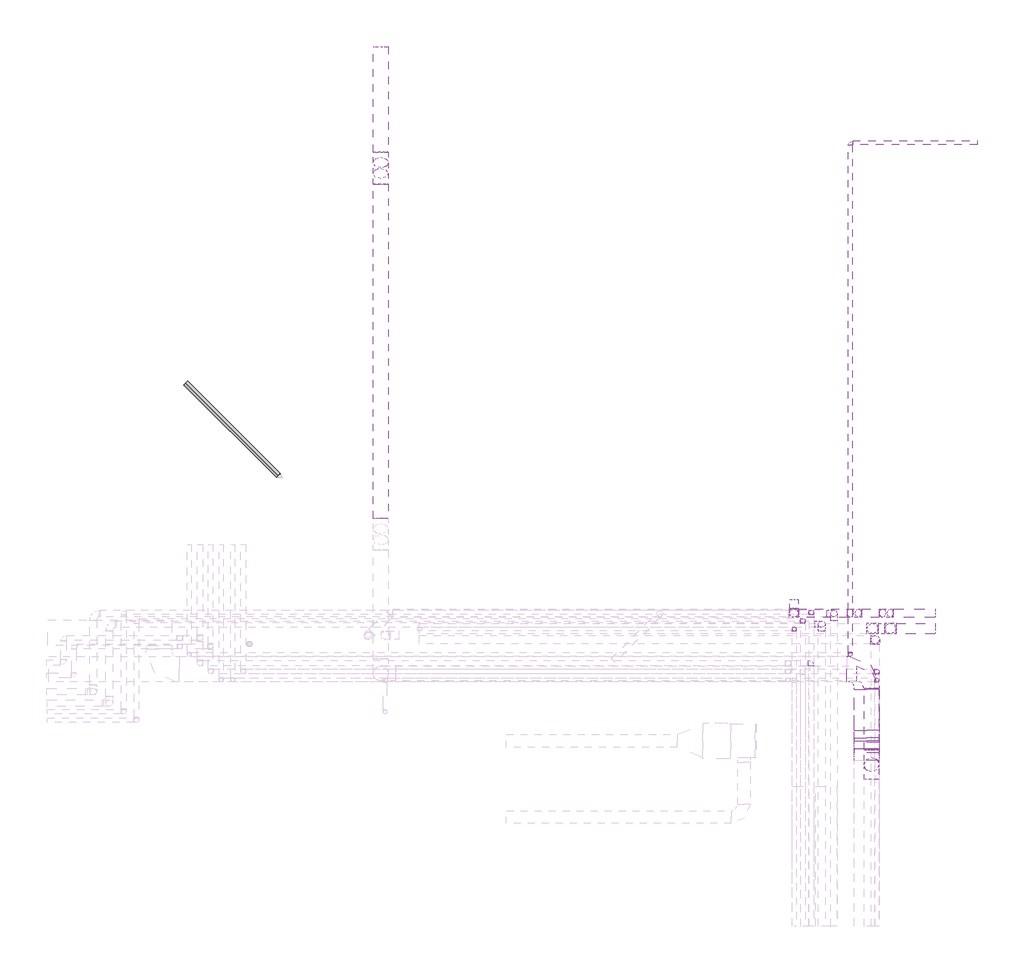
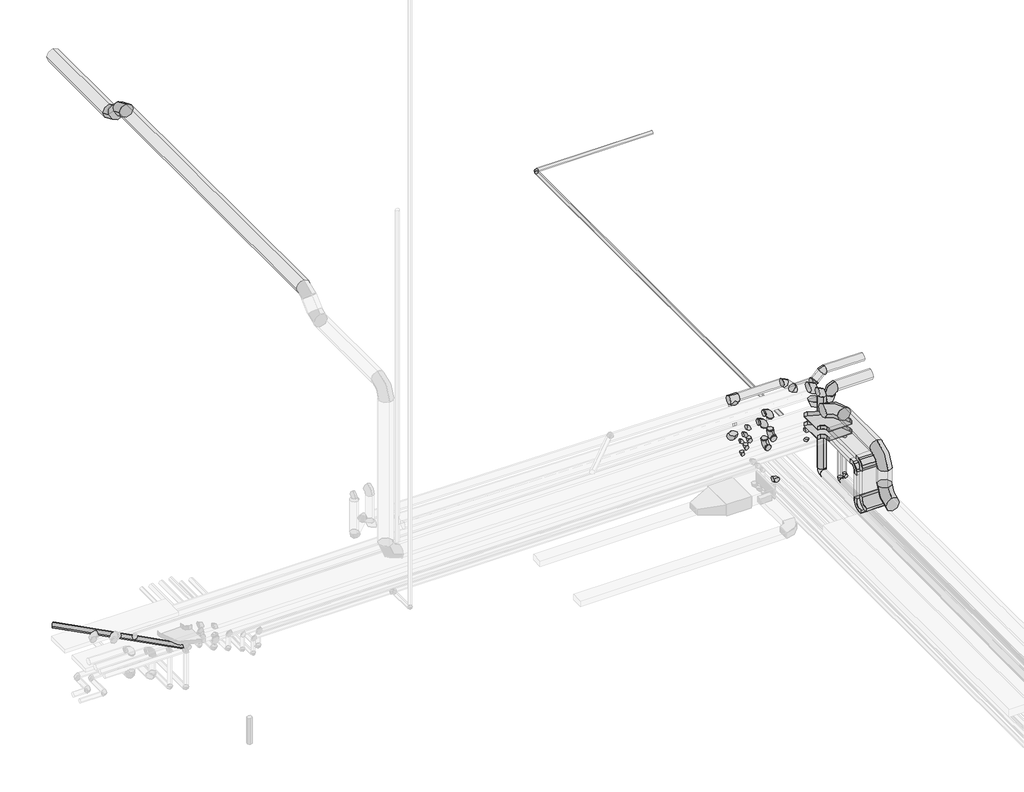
# One storey, part 12 of 12: 30 pipe fittings, 23 pipe segments, 6 cable carrier fittings, 5 duct fittings, 5 duct segments, 4 cable carrier segments.
"""IFC4 building model written with IfcOpenShell, lengths in millimetres."""

from ifc_helpers import new_model, si_unit, point, frame, frame_2d, origin, place, context, project, spatial, polyline, circle_curve, trimmed, segment, composite_curve, outline, extrude, transform, mapped, element, save
from components import m_codo_horizontal_de_canal_el_942b80fb, m_codo_vertical_exterior_de_canal_el_de53a87f, m_codo_vertical_interior_de_canal_el_ae449671, m_codo_redondo_ext_1_d_63cf0125, m_codo_redondo_ext_1_d_13bc036d, pipe_fitting_eb148d84, pipe_fitting_c8b089c1, pipe_fitting_fa3f9604, pipe_fitting_87aeffad, pipe_fitting_538e9e3e, pipe_fitting_24306459, pipe_fitting_2828413b, pipe_fitting_a195f39d, pipe_fitting_6271dc1d, pipe_fitting_e24ca710, pipe_fitting_84574e39

model = new_model("IFC4")

# Units and contexts
model_context = context("Model", 3, world=origin())
ifc_project = project(units=[si_unit("LENGTHUNIT", "METRE", prefix="MILLI")], contexts=[model_context])

# Site, building, storey
site = spatial("IfcSite", under=ifc_project)
building = spatial("IfcBuilding", under=site)
storey = spatial("IfcBuildingStorey", under=building, Name="Nivell -01 PS1_PK", Elevation=1850.0)

# Cable carrier fittings
placement = place(None, origin())
m_codo_horizontal_de_canal_el_shape = m_codo_horizontal_de_canal_el_942b80fb(model_context)
element("IfcCableCarrierFitting", 1, ObjectType="M_Codo horizontal de canal : EL", at=placement, inside=storey, context=model_context, shape_type="MappedRepresentation", body=[
    mapped(m_codo_horizontal_de_canal_el_shape, transform((33367.3540629, 3297.0810479, 5200.0), x_axis=(1.0, 0.0, 0.0), y_axis=(0.0, 1.0, 0.0), z_axis=(0.0, 0.0, 1.0))),
])
element("IfcCableCarrierFitting", 2, ObjectType="M_Codo horizontal de canal : EL", at=placement, inside=storey, context=model_context, shape_type="MappedRepresentation", body=[
    mapped(m_codo_horizontal_de_canal_el_shape, transform((33367.3540629, 3297.068534, 5450.0), x_axis=(1.0, 0.0, 0.0), y_axis=(0.0, 1.0, 0.0), z_axis=(0.0, 0.0, 1.0))),
])
m_codo_vertical_exterior_de_canal_el_shape = m_codo_vertical_exterior_de_canal_el_de53a87f(model_context)
element("IfcCableCarrierFitting", 3, ObjectType="M_Codo vertical exterior de canal : EL", at=placement, inside=storey, context=model_context, shape_type="MappedRepresentation", body=[
    mapped(m_codo_vertical_exterior_de_canal_el_shape, transform((33367.3540629, 1622.9984631, 5200.0), x_axis=(0.0, -1.0, 0.0), y_axis=(0.0, 0.0, -1.0), z_axis=(1.0, 0.0, 0.0))),
])
element("IfcCableCarrierFitting", 4, ObjectType="M_Codo vertical exterior de canal : EL", at=placement, inside=storey, context=model_context, shape_type="MappedRepresentation", body=[
    mapped(m_codo_vertical_exterior_de_canal_el_shape, transform((33367.3540629, 1372.9859493, 5450.0), x_axis=(0.0, -1.0, 0.0), y_axis=(0.0, 0.0, -1.0), z_axis=(1.0, 0.0, 0.0))),
])
m_codo_vertical_interior_de_canal_el_shape = m_codo_vertical_interior_de_canal_el_ae449671(model_context)
element("IfcCableCarrierFitting", 5, ObjectType="M_Codo vertical interior de canal : EL", at=placement, inside=storey, context=model_context, shape_type="MappedRepresentation", body=[
    mapped(m_codo_vertical_interior_de_canal_el_shape, transform((33367.3540629, 1622.9984631, 4100.0), x_axis=(0.0, 1.0, 0.0), y_axis=(0.0, 0.0, 1.0), z_axis=(1.0, 0.0, 0.0))),
])
element("IfcCableCarrierFitting", 6, ObjectType="M_Codo vertical interior de canal : EL", at=placement, inside=storey, context=model_context, shape_type="MappedRepresentation", body=[
    mapped(m_codo_vertical_interior_de_canal_el_shape, transform((33367.3540629, 1372.9859493, 4300.0), x_axis=(0.0, 0.0, -1.0), y_axis=(0.0, -1.0, 0.0), z_axis=(-1.0, 0.0, 0.0))),
])

# Cable carrier segments
element("IfcCableCarrierSegment", 7, ObjectType="EL", at=placement, inside=storey, context=model_context, shape_type="SweptSolid", body=[
    extrude(outline(polyline([(33667.3540629, 1597.9859493), (33067.3540629, 1597.9859493), (33067.3540629, 2822.068534), (33667.3540629, 2822.068534), (33667.3540629, 1597.9859493)])), frame((0.0, 0.0, 5400.0), z_axis=(0.0, 0.0, 1.0), x_axis=(1.0, 0.0, 0.0)), (0.0, 0.0, 1.0), 100.0),
])
element("IfcCableCarrierSegment", 8, ObjectType="EL", at=placement, inside=storey, context=model_context, shape_type="SweptSolid", body=[
    extrude(outline(polyline([(33667.3540629, 1847.9984631), (33067.3540629, 1847.9984631), (33067.3540629, 2822.0810479), (33667.3540629, 2822.0810479), (33667.3540629, 1847.9984631)])), frame((0.0, 0.0, 5150.0), z_axis=(0.0, 0.0, 1.0), x_axis=(1.0, 0.0, 0.0)), (0.0, 0.0, 1.0), 100.0),
])
element("IfcCableCarrierSegment", 9, ObjectType="EL", at=placement, inside=storey, context=model_context, shape_type="SweptSolid", body=[
    extrude(outline(polyline([(33667.3540629, 1422.9859493), (33667.3540629, 1322.9859493), (33067.3540629, 1322.9859493), (33067.3540629, 1422.9859493), (33667.3540629, 1422.9859493)])), frame((0.0, 0.0, 4525.0), z_axis=(0.0, 0.0, 1.0), x_axis=(1.0, 0.0, 0.0)), (0.0, 0.0, 1.0), 700.0),
])
element("IfcCableCarrierSegment", 10, ObjectType="EL", at=placement, inside=storey, context=model_context, shape_type="SweptSolid", body=[
    extrude(outline(polyline([(33667.3540629, 1672.9984631), (33667.3540629, 1572.9984631), (33067.3540629, 1572.9984631), (33067.3540629, 1672.9984631), (33667.3540629, 1672.9984631)])), frame((0.0, 0.0, 4325.0), z_axis=(0.0, 0.0, 1.0), x_axis=(1.0, 0.0, 0.0)), (0.0, 0.0, 1.0), 650.0),
])

# Duct fittings
m_codo_redondo_ext_1_d_shape = m_codo_redondo_ext_1_d_63cf0125(model_context)
element("IfcDuctFitting", 11, ObjectType="M_Codo redondo : EXT_1 D", at=placement, inside=storey, context=model_context, shape_type="MappedRepresentation", body=[
    mapped(m_codo_redondo_ext_1_d_shape, transform((33479.0046011, 1042.4040569, 5730.0), x_axis=(0.0, -1.0, 0.0), y_axis=(0.0, 0.0, -1.0), z_axis=(1.0, 0.0, 0.0))),
])
element("IfcDuctFitting", 12, ObjectType="M_Codo redondo : EXT_1 D", at=placement, inside=storey, context=model_context, shape_type="MappedRepresentation", body=[
    mapped(m_codo_redondo_ext_1_d_shape, transform((33479.0046011, 3192.4040569, 5730.0), x_axis=(0.0, 1.0, 0.0), y_axis=(-1.0, 0.0, 0.0), z_axis=(0.0, 0.0, 1.0))),
])
element("IfcDuctFitting", 13, ObjectType="M_Codo redondo : EXT_1 D", at=placement, inside=storey, context=model_context, shape_type="MappedRepresentation", body=[
    mapped(m_codo_redondo_ext_1_d_shape, transform((33479.0046011, 1042.4040569, 4575.0), x_axis=(0.0, 0.0, -1.0), y_axis=(0.0, -1.0, 0.0), z_axis=(-1.0, 0.0, 0.0))),
])
m_codo_redondo_ext_1_d_2_shape = m_codo_redondo_ext_1_d_13bc036d(model_context)
element("IfcDuctFitting", 14, ObjectType="M_Codo redondo : EXT_1 D", at=placement, inside=storey, context=model_context, shape_type="MappedRepresentation", body=[
    mapped(m_codo_redondo_ext_1_d_2_shape, transform((21901.1871418, 15354.4040569, 10350.0), x_axis=(0.0, -1.0, 0.0), y_axis=(0.0, 0.0, 1.0), z_axis=(-1.0, 0.0, 0.0))),
])
element("IfcDuctFitting", 15, ObjectType="M_Codo redondo : EXT_1 D", at=placement, inside=storey, context=model_context, shape_type="MappedRepresentation", body=[
    mapped(m_codo_redondo_ext_1_d_2_shape, transform((21901.1871418, 14894.4040569, 10810.0), x_axis=(0.0, -0.7071067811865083, 0.7071067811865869), y_axis=(0.0, -0.7071067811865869, -0.7071067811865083), z_axis=(1.0, 0.0, 0.0))),
])

# Duct segments
element("IfcDuctSegment", 16, ObjectType="EXT_Acer Galvanitzat - Rígid", at=placement, inside=storey, context=model_context, shape_type="SweptSolid", body=[
    extrude(outline(composite_curve([segment(trimmed(circle_curve(frame_2d((10350.0, 21901.1871418)), 175.0), [point((10350.0, 22076.1871418))], [point((10525.0, 21901.1871418))], False, "CARTESIAN"), True, "CONTINUOUS"), segment(trimmed(circle_curve(frame_2d((10350.0, 21901.1871418)), 175.0), [point((10525.0, 21901.1871418))], [point((10350.0, 21726.1871418))], False, "CARTESIAN"), True, "CONTINUOUS"), segment(trimmed(circle_curve(frame_2d((10350.0, 21901.1871418)), 175.0), [point((10350.0, 21726.1871418))], [point((10175.0, 21901.1871418))], False, "CARTESIAN"), True, "CONTINUOUS"), segment(trimmed(circle_curve(frame_2d((10350.0, 21901.1871418)), 175.0), [point((10175.0, 21901.1871418))], [point((10350.0, 22076.1871418))], False, "CARTESIAN"), True, "CONTINUOUS")], self_intersect=False)), frame((0.0, 15499.3788038, 0.0), z_axis=(0.0, 1.0, 0.0), x_axis=(0.0, 0.0, 1.0)), (0.0, 0.0, 1.0), 2493.0252532),
])
element("IfcDuctSegment", 17, ObjectType="EXT_Acer Galvanitzat - Rígid", at=placement, inside=storey, context=model_context, shape_type="SweptSolid", body=[
    extrude(outline(composite_curve([segment(trimmed(circle_curve(frame_2d((0.0, 175.0)), 175.0), [point((-175.0, 175.0))], [point((0.0, 350.0))], False, "CARTESIAN"), True, "CONTINUOUS"), segment(trimmed(circle_curve(frame_2d((0.0, 175.0)), 175.0), [point((0.0, 350.0))], [point((175.0, 175.0))], False, "CARTESIAN"), True, "CONTINUOUS"), segment(trimmed(circle_curve(frame_2d((0.0, 175.0)), 175.0), [point((175.0, 175.0))], [point((0.0, 0.0))], False, "CARTESIAN"), True, "CONTINUOUS"), segment(trimmed(circle_curve(frame_2d((0.0, 175.0)), 175.0), [point((0.0, 0.0))], [point((-175.0, 175.0))], False, "CARTESIAN"), True, "CONTINUOUS")], self_intersect=False)), frame((21901.1871418, 15128.1477437, 10328.7689399), z_axis=(0.0, -0.707106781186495, 0.7071067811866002), x_axis=(1.0, 0.0, 0.0)), (0.0, 0.0, 1.0), 360.588745),
])
element("IfcDuctSegment", 18, ObjectType="EXT_Acer Galvanitzat - Rígid", at=placement, inside=storey, context=model_context, shape_type="SweptSolid", body=[
    extrude(outline(composite_curve([segment(trimmed(circle_curve(frame_2d((10810.0, 21901.1871418)), 175.0), [point((10810.0, 22076.1871418))], [point((10985.0, 21901.1871418))], False, "CARTESIAN"), True, "CONTINUOUS"), segment(trimmed(circle_curve(frame_2d((10810.0, 21901.1871418)), 175.0), [point((10985.0, 21901.1871418))], [point((10810.0, 21726.1871418))], False, "CARTESIAN"), True, "CONTINUOUS"), segment(trimmed(circle_curve(frame_2d((10810.0, 21901.1871418)), 175.0), [point((10810.0, 21726.1871418))], [point((10635.0, 21901.1871418))], False, "CARTESIAN"), True, "CONTINUOUS"), segment(trimmed(circle_curve(frame_2d((10810.0, 21901.1871418)), 175.0), [point((10635.0, 21901.1871418))], [point((10810.0, 22076.1871418))], False, "CARTESIAN"), True, "CONTINUOUS")], self_intersect=False)), frame((0.0, 6853.3788038, 0.0), z_axis=(0.0, 1.0, 0.0), x_axis=(0.0, 0.0, 1.0)), (0.0, 0.0, 1.0), 7896.0505063),
])
element("IfcDuctSegment", 19, ObjectType="EXT_Acer Galvanitzat - Rígid", at=placement, inside=storey, context=model_context, shape_type="SweptSolid", body=[
    extrude(outline(composite_curve([segment(trimmed(circle_curve(frame_2d((5730.0, 33479.0046011)), 175.0), [point((5730.0, 33304.0046011))], [point((5555.0, 33479.0046011))], False, "CARTESIAN"), True, "CONTINUOUS"), segment(trimmed(circle_curve(frame_2d((5730.0, 33479.0046011)), 175.0), [point((5555.0, 33479.0046011))], [point((5730.0, 33654.0046011))], False, "CARTESIAN"), True, "CONTINUOUS"), segment(trimmed(circle_curve(frame_2d((5730.0, 33479.0046011)), 175.0), [point((5730.0, 33654.0046011))], [point((5905.0, 33479.0046011))], False, "CARTESIAN"), True, "CONTINUOUS"), segment(trimmed(circle_curve(frame_2d((5730.0, 33479.0046011)), 175.0), [point((5905.0, 33479.0046011))], [point((5730.0, 33304.0046011))], False, "CARTESIAN"), True, "CONTINUOUS")], self_intersect=False)), frame((0.0, 1392.4040569, 0.0), z_axis=(0.0, 1.0, 0.0), x_axis=(0.0, 0.0, 1.0)), (0.0, 0.0, 1.0), 1450.0),
])
element("IfcDuctSegment", 20, ObjectType="EXT_Acer Galvanitzat - Rígid", at=placement, inside=storey, context=model_context, shape_type="SweptSolid", body=[
    extrude(outline(composite_curve([segment(trimmed(circle_curve(frame_2d((33479.0046011, 1042.4040569)), 175.0), [point((33304.0046011, 1042.4040569))], [point((33479.0046011, 1217.4040569))], False, "CARTESIAN"), True, "CONTINUOUS"), segment(trimmed(circle_curve(frame_2d((33479.0046011, 1042.4040569)), 175.0), [point((33479.0046011, 1217.4040569))], [point((33654.0046011, 1042.4040569))], False, "CARTESIAN"), True, "CONTINUOUS"), segment(trimmed(circle_curve(frame_2d((33479.0046011, 1042.4040569)), 175.0), [point((33654.0046011, 1042.4040569))], [point((33479.0046011, 867.4040569))], False, "CARTESIAN"), True, "CONTINUOUS"), segment(trimmed(circle_curve(frame_2d((33479.0046011, 1042.4040569)), 175.0), [point((33479.0046011, 867.4040569))], [point((33304.0046011, 1042.4040569))], False, "CARTESIAN"), True, "CONTINUOUS")], self_intersect=False)), frame((0.0, 0.0, 4925.0), z_axis=(0.0, 0.0, 1.0), x_axis=(1.0, 0.0, 0.0)), (0.0, 0.0, 1.0), 455.0),
])

# Pipe fittings
pipe_fitting_shape = pipe_fitting_eb148d84(model_context)
element("IfcPipeFitting", 21, ObjectType="M_Codo - Genérico : Estándar", at=placement, inside=storey, context=model_context, shape_type="MappedRepresentation", body=[
    mapped(pipe_fitting_shape, transform((33568.0511516, 3993.3036778, 3451.4317678), x_axis=(0.0, 0.9999500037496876, 0.009999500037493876), y_axis=(0.0, -0.009999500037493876, 0.9999500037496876), z_axis=(1.0, 0.0, 0.0))),
])
element("IfcPipeFitting", 22, ObjectType="M_Codo - Genérico : Estándar", at=placement, inside=storey, context=model_context, shape_type="MappedRepresentation", body=[
    mapped(pipe_fitting_shape, transform((33568.0511516, 3993.3036778, 5636.3278403), x_axis=(0.0, 0.0, 1.0), y_axis=(-0.9999999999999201, -3.9989635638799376e-07, 0.0), z_axis=(3.9989635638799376e-07, -0.9999999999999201, 0.0))),
])
pipe_fitting_2_shape = pipe_fitting_c8b089c1(model_context)
element("IfcPipeFitting", 23, ObjectType="M_Codo - Genérico : Estándar", at=placement, inside=storey, context=model_context, shape_type="MappedRepresentation", body=[
    mapped(pipe_fitting_2_shape, transform((33202.3197819, 4620.0110129, 5442.8278763), x_axis=(-1.0, 0.0, 0.0), y_axis=(0.0, 0.0, 1.0), z_axis=(0.0, 1.0, 0.0))),
])
element("IfcPipeFitting", 24, ObjectType="M_Codo - Genérico : Estándar", at=placement, inside=storey, context=model_context, shape_type="MappedRepresentation", body=[
    mapped(pipe_fitting_2_shape, transform((33953.0670435, 4619.8707892, 5682.3637373), x_axis=(-1.0, 0.0, 0.0), y_axis=(0.0, 0.0, -1.0), z_axis=(0.0, -1.0, 0.0))),
])
element("IfcPipeFitting", 25, ObjectType="M_Codo - Genérico : Estándar", at=placement, inside=storey, context=model_context, shape_type="MappedRepresentation", body=[
    mapped(pipe_fitting_2_shape, transform((33713.5311825, 4619.8707892, 5442.8278763), x_axis=(1.0, 0.0, 0.0), y_axis=(0.0, 0.0, 1.0), z_axis=(0.0, -1.0, 0.0))),
])
pipe_fitting_3_shape = pipe_fitting_fa3f9604(model_context)
element("IfcPipeFitting", 26, ObjectType="M_Codo - Genérico : Estándar", at=placement, inside=storey, context=model_context, shape_type="MappedRepresentation", body=[
    mapped(pipe_fitting_3_shape, transform((31862.999736, 4439.2153677, 4795.0), x_axis=(1.0, 0.0, 0.0), y_axis=(0.0, 0.0, -1.0), z_axis=(0.0, 1.0, 0.0))),
])
element("IfcPipeFitting", 27, ObjectType="M_Codo - Genérico : Estándar", at=placement, inside=storey, context=model_context, shape_type="MappedRepresentation", body=[
    mapped(pipe_fitting_3_shape, transform((32063.0084537, 4639.2240514, 4795.0), x_axis=(0.0, 0.0, 1.0), y_axis=(-0.9999999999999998, -2.2515615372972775e-08, 0.0), z_axis=(2.2515615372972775e-08, -0.9999999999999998, 0.0))),
])
element("IfcPipeFitting", 28, ObjectType="M_Codo - Genérico : Estándar", at=placement, inside=storey, context=model_context, shape_type="MappedRepresentation", body=[
    mapped(pipe_fitting_3_shape, transform((31862.999736, 4439.2153677, 4445.0), x_axis=(0.0, 0.0, -1.0), y_axis=(0.0, -1.0, 0.0), z_axis=(-1.0, 0.0, 0.0))),
])
element("IfcPipeFitting", 29, ObjectType="M_Codo - Genérico : Estándar", at=placement, inside=storey, context=model_context, shape_type="MappedRepresentation", body=[
    mapped(pipe_fitting_3_shape, transform((32063.0084537, 4639.2240514, 4445.0), x_axis=(0.0, 0.0, -1.0), y_axis=(-2.2515615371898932e-08, -0.9999999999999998, 0.0), z_axis=(-0.9999999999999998, 2.2515615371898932e-08, 0.0))),
])
element("IfcPipeFitting", 30, ObjectType="M_Codo - Genérico : Estándar", at=placement, inside=storey, context=model_context, shape_type="MappedRepresentation", body=[
    mapped(pipe_fitting_3_shape, transform((33608.2286578, 3241.4395612, 4995.0), x_axis=(1.0, 0.0, 0.0), y_axis=(0.0, 0.0, -1.0), z_axis=(0.0, 1.0, 0.0))),
])
element("IfcPipeFitting", 31, ObjectType="M_Codo - Genérico : Estándar", at=placement, inside=storey, context=model_context, shape_type="MappedRepresentation", body=[
    mapped(pipe_fitting_3_shape, transform((33608.2286578, 3241.4395612, 3675.0), x_axis=(0.0, 0.0, -1.0), y_axis=(0.0, -1.0, 0.0), z_axis=(-1.0, 0.0, 0.0))),
])
pipe_fitting_4_shape = pipe_fitting_87aeffad(model_context)
element("IfcPipeFitting", 32, ObjectType="M_Codo - Genérico : Estándar", at=placement, inside=storey, context=model_context, shape_type="MappedRepresentation", body=[
    mapped(pipe_fitting_4_shape, transform((32979.5714974, 15721.4395612, 4700.0), x_axis=(-1.0, 0.0, 0.0), y_axis=(0.0, -1.0, 0.0), z_axis=(0.0, 0.0, 1.0))),
])
element("IfcPipeFitting", 33, ObjectType="M_Codo - Genérico : Estándar", at=placement, inside=storey, context=model_context, shape_type="MappedRepresentation", body=[
    mapped(pipe_fitting_4_shape, transform((32979.5714974, 3641.4395612, 4700.0), x_axis=(0.0, -1.0, 0.0), y_axis=(0.0, 0.0, 1.0), z_axis=(-1.0, 0.0, 0.0))),
])
element("IfcPipeFitting", 34, ObjectType="M_Codo - Genérico : Estándar", at=placement, inside=storey, context=model_context, shape_type="MappedRepresentation", body=[
    mapped(pipe_fitting_4_shape, transform((31659.0046011, 4244.3728734, 4449.2), x_axis=(0.0, 1.0, 0.0), y_axis=(0.0, 0.0, 1.0), z_axis=(1.0, 0.0, 0.0))),
])
element("IfcPipeFitting", 35, ObjectType="M_Codo - Genérico : Estándar", at=placement, inside=storey, context=model_context, shape_type="MappedRepresentation", body=[
    mapped(pipe_fitting_4_shape, transform((31659.0046011, 4244.3728734, 4799.2), x_axis=(0.0, 0.0, 1.0), y_axis=(-1.0, 0.0, 0.0), z_axis=(0.0, -1.0, 0.0))),
])
element("IfcPipeFitting", 36, ObjectType="M_Codo - Genérico : Estándar", at=placement, inside=storey, context=model_context, shape_type="MappedRepresentation", body=[
    mapped(pipe_fitting_4_shape, transform((32979.5714974, 3641.4395612, 5005.0), x_axis=(0.0, 0.0, 1.0), y_axis=(-1.0, 0.0, 0.0), z_axis=(0.0, -1.0, 0.0))),
])
element("IfcPipeFitting", 37, ObjectType="M_Codo - Genérico : Estándar", at=placement, inside=storey, context=model_context, shape_type="MappedRepresentation", body=[
    mapped(pipe_fitting_4_shape, transform((33608.2286578, 3041.4395612, 3905.0), x_axis=(0.0, 1.0, 0.0), y_axis=(0.0, 0.0, 1.0), z_axis=(1.0, 0.0, 0.0))),
])
element("IfcPipeFitting", 38, ObjectType="M_Codo - Genérico : Estándar", at=placement, inside=storey, context=model_context, shape_type="MappedRepresentation", body=[
    mapped(pipe_fitting_4_shape, transform((33608.2286578, 3041.4395612, 5005.0), x_axis=(0.0, 0.0, 1.0), y_axis=(-1.0, 0.0, 0.0), z_axis=(0.0, -1.0, 0.0))),
])
pipe_fitting_5_shape = pipe_fitting_538e9e3e(model_context)
element("IfcPipeFitting", 39, ObjectType="M_Codo - Genérico : Estándar", at=placement, inside=storey, context=model_context, shape_type="MappedRepresentation", body=[
    mapped(pipe_fitting_5_shape, transform((32950.070006, 4620.0110129, 5695.0776522), x_axis=(-0.7071067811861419, 0.0, 0.7071067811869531), y_axis=(-0.7071067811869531, 0.0, -0.7071067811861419), z_axis=(0.0, -1.0, 0.0))),
])
pipe_fitting_6_shape = pipe_fitting_24306459(model_context)
element("IfcPipeFitting", 40, ObjectType="M_Codo - Genérico : Estándar", at=placement, inside=storey, context=model_context, shape_type="MappedRepresentation", body=[
    mapped(pipe_fitting_6_shape, transform((32060.0107148, 3441.4395612, 4116.785625), x_axis=(0.0, 0.9999999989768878, -4.523521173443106e-05), y_axis=(-0.9999500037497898, -4.5232950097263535e-07, -0.009999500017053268), z_axis=(-0.009999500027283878, 4.5232950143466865e-05, 0.9999500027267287))),
])
pipe_fitting_7_shape = pipe_fitting_2828413b(model_context)
element("IfcPipeFitting", 41, ObjectType="Codo 90º Soldadura a Tope SDR 11 BluePipe : Estándar", at=placement, inside=storey, context=model_context, shape_type="MappedRepresentation", body=[
    mapped(pipe_fitting_7_shape, transform((32306.26064, 4359.1515517, 5050.0), x_axis=(0.0, 0.0, 1.0), y_axis=(-0.9999999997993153, -2.003420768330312e-05, 0.0), z_axis=(2.003420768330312e-05, -0.9999999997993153, 0.0))),
])
element("IfcPipeFitting", 42, ObjectType="Codo 90º Soldadura a Tope SDR 11 BluePipe : Estándar", at=placement, inside=storey, context=model_context, shape_type="MappedRepresentation", body=[
    mapped(pipe_fitting_7_shape, transform((32596.1978946, 4609.0897798, 5050.0000025), x_axis=(0.0, 0.0, 1.0), y_axis=(-0.9999999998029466, -1.9852121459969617e-05, 0.0), z_axis=(1.9852121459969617e-05, -0.9999999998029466, 0.0))),
])
element("IfcPipeFitting", 43, ObjectType="Codo 90º Soldadura a Tope SDR 11 BluePipe : Estándar", at=placement, inside=storey, context=model_context, shape_type="MappedRepresentation", body=[
    mapped(pipe_fitting_7_shape, transform((32306.26064, 4359.1515517, 4400.0), x_axis=(0.0, 0.0, -1.0), y_axis=(-2.0034207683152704e-05, -0.9999999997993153, 0.0), z_axis=(-0.9999999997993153, 2.0034207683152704e-05, 0.0))),
])
element("IfcPipeFitting", 44, ObjectType="Codo 90º Soldadura a Tope SDR 11 BluePipe : Estándar", at=placement, inside=storey, context=model_context, shape_type="MappedRepresentation", body=[
    mapped(pipe_fitting_7_shape, transform((32596.1978946, 4609.0897798, 4399.9999315), x_axis=(0.0, 0.0, -1.0), y_axis=(-1.9852121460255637e-05, -0.9999999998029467, 0.0), z_axis=(-0.9999999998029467, 1.9852121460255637e-05, 0.0))),
])
pipe_fitting_8_shape = pipe_fitting_a195f39d(model_context)
element("IfcPipeFitting", 45, ObjectType="M_Te - Genérica : Estándar", at=placement, inside=storey, context=model_context, shape_type="MappedRepresentation", body=[
    mapped(pipe_fitting_8_shape, transform((31650.8104795, 4620.0194885, 5708.0702467), x_axis=(-0.9999500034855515, 2.3110004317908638e-05, 0.009999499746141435), y_axis=(0.009999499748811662, 0.0, 0.9999500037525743), z_axis=(2.3108848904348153e-05, 0.9999999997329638, -2.3108848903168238e-07))),
])
pipe_fitting_9_shape = pipe_fitting_6271dc1d(model_context)
element("IfcPipeFitting", 46, ObjectType="M_Codo - Genérico : Estándar", at=placement, inside=storey, context=model_context, shape_type="MappedRepresentation", body=[
    mapped(pipe_fitting_9_shape, transform((31650.8104795, 4620.019244, 4650.0), x_axis=(0.0, -2.3108849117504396e-07, -0.9999999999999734), y_axis=(0.0, 0.9999999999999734, -2.3108849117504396e-07), z_axis=(1.0, 0.0, 0.0))),
])
pipe_fitting_10_shape = pipe_fitting_e24ca710(model_context)
element("IfcPipeFitting", 47, ObjectType="M_Codo - Genérico : Estándar", at=placement, inside=storey, context=model_context, shape_type="MappedRepresentation", body=[
    mapped(pipe_fitting_10_shape, transform((33503.9366062, 4253.0645521, 5139.3362395), x_axis=(0.0, 0.0, -1.0), y_axis=(-1.0, 0.0, 0.0), z_axis=(0.0, 1.0, 0.0))),
])
element("IfcPipeFitting", 48, ObjectType="M_Codo - Genérico : Estándar", at=placement, inside=storey, context=model_context, shape_type="MappedRepresentation", body=[
    mapped(pipe_fitting_10_shape, transform((33923.9366062, 4253.0645521, 5139.3362395), x_axis=(1.0, 0.0, 0.0), y_axis=(0.0, 0.0, -1.0), z_axis=(0.0, 1.0, 0.0))),
])
element("IfcPipeFitting", 49, ObjectType="M_Codo - Genérico : Estándar", at=placement, inside=storey, context=model_context, shape_type="MappedRepresentation", body=[
    mapped(pipe_fitting_10_shape, transform((33923.9366062, 4253.0645521, 5429.3362395), x_axis=(0.0, 0.0, 1.0), y_axis=(-1.0, 0.0, 0.0), z_axis=(0.0, -1.0, 0.0))),
])
pipe_fitting_11_shape = pipe_fitting_84574e39(model_context)
element("IfcPipeFitting", 50, ObjectType="M_Codo - Genérico : Estándar", at=placement, inside=storey, context=model_context, shape_type="MappedRepresentation", body=[
    mapped(pipe_fitting_11_shape, transform((33503.9366062, 4253.0645521, 5636.8108452), x_axis=(0.0, 0.0, 1.0), y_axis=(-1.0, 0.0, 0.0), z_axis=(0.0, -1.0, 0.0))),
])

# Pipe segments
element("IfcPipeSegment", 51, ObjectType="PVC_Baixant", at=placement, inside=storey, context=model_context, shape_type="SweptSolid", body=[
    extrude(outline(composite_curve([segment(trimmed(circle_curve(frame_2d((0.0, -62.5)), 62.5), [point((-62.4968759, -63.1249062))], [point((-0.6249063, -0.0031241))], False, "CARTESIAN"), True, "CONTINUOUS"), segment(trimmed(circle_curve(frame_2d((0.0, -62.5)), 62.5), [point((-0.6249063, -0.0031241))], [point((62.4968759, -61.8750937))], False, "CARTESIAN"), True, "CONTINUOUS"), segment(trimmed(circle_curve(frame_2d((0.0, -62.5)), 62.5), [point((62.4968759, -61.8750937))], [point((0.6249063, -124.9968759))], False, "CARTESIAN"), True, "CONTINUOUS"), segment(trimmed(circle_curve(frame_2d((0.0, -62.5)), 62.5), [point((0.6249063, -124.9968759))], [point((-62.4968759, -63.1249062))], False, "CARTESIAN"), True, "CONTINUOUS")], self_intersect=False)), frame((19488.5231176, 7869.0110025, 1191.1110567), z_axis=(-0.7070537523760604, 0.7070891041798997, 0.009999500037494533), x_axis=(0.707159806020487, 0.7069830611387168, 0.009998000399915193)), (0.0, 0.0, 1.0), 3089.693281),
])
element("IfcPipeSegment", 52, ObjectType="PVC_Baixant", at=placement, inside=storey, context=model_context, shape_type="SweptSolid", body=[
    extrude(outline(composite_curve([segment(trimmed(circle_curve(frame_2d((4650.0, 31650.8104795)), 100.0), [point((4650.0, 31550.8104795))], [point((4550.0, 31650.8104795))], False, "CARTESIAN"), True, "CONTINUOUS"), segment(trimmed(circle_curve(frame_2d((4650.0, 31650.8104795)), 100.0), [point((4550.0, 31650.8104795))], [point((4650.0, 31750.8104795))], False, "CARTESIAN"), True, "CONTINUOUS"), segment(trimmed(circle_curve(frame_2d((4650.0, 31650.8104795)), 100.0), [point((4650.0, 31750.8104795))], [point((4750.0, 31650.8104795))], False, "CARTESIAN"), True, "CONTINUOUS"), segment(trimmed(circle_curve(frame_2d((4650.0, 31650.8104795)), 100.0), [point((4750.0, 31650.8104795))], [point((4650.0, 31550.8104795))], False, "CARTESIAN"), True, "CONTINUOUS")], self_intersect=False)), frame((0.0, 4729.5567693, 0.0), z_axis=(0.0, 1.0, 0.0), x_axis=(0.0, 0.0, 1.0)), (0.0, 0.0, 1.0), 210.5653337),
])
element("IfcPipeSegment", 53, ObjectType="PVC_Baixant", at=placement, inside=storey, context=model_context, shape_type="SweptSolid", body=[
    extrude(outline(composite_curve([segment(trimmed(circle_curve(frame_2d((4620.0110129, 5442.8278763)), 100.0), [point((4520.0110129, 5442.8278763))], [point((4620.0110129, 5542.8278763))], False, "CARTESIAN"), True, "CONTINUOUS"), segment(trimmed(circle_curve(frame_2d((4620.0110129, 5442.8278763)), 100.0), [point((4620.0110129, 5542.8278763))], [point((4720.0110129, 5442.8278763))], False, "CARTESIAN"), True, "CONTINUOUS"), segment(trimmed(circle_curve(frame_2d((4620.0110129, 5442.8278763)), 100.0), [point((4720.0110129, 5442.8278763))], [point((4620.0110129, 5342.8278763))], False, "CARTESIAN"), True, "CONTINUOUS"), segment(trimmed(circle_curve(frame_2d((4620.0110129, 5442.8278763)), 100.0), [point((4620.0110129, 5342.8278763))], [point((4520.0110129, 5442.8278763))], False, "CARTESIAN"), True, "CONTINUOUS")], self_intersect=False)), frame((33247.6917, 0.0, 0.0), z_axis=(1.0, 0.0, 0.0), x_axis=(0.0, 1.0, 0.0)), (0.0, 0.0, 1.0), 420.4675644),
])
element("IfcPipeSegment", 54, ObjectType="PVC_Baixant", at=placement, inside=storey, context=model_context, shape_type="SweptSolid", body=[
    extrude(outline(composite_curve([segment(trimmed(circle_curve(frame_2d((0.0, 100.0)), 100.0), [point((0.0, 200.0))], [point((100.0, 100.0))], False, "CARTESIAN"), True, "CONTINUOUS"), segment(trimmed(circle_curve(frame_2d((0.0, 100.0)), 100.0), [point((100.0, 100.0))], [point((0.0, 0.0))], False, "CARTESIAN"), True, "CONTINUOUS"), segment(trimmed(circle_curve(frame_2d((0.0, 100.0)), 100.0), [point((0.0, 0.0))], [point((-100.0, 100.0))], False, "CARTESIAN"), True, "CONTINUOUS"), segment(trimmed(circle_curve(frame_2d((0.0, 100.0)), 100.0), [point((-100.0, 100.0))], [point((0.0, 200.0))], False, "CARTESIAN"), True, "CONTINUOUS")], self_intersect=False)), frame((33170.236991, 4520.0110129, 5474.9106672), z_axis=(-0.7071067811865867, 0.0, 0.7071067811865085), x_axis=(0.7071067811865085, 0.0, 0.7071067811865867)), (0.0, 0.0, 1.0), 266.6315316),
])
element("IfcPipeSegment", 55, ObjectType="PVC_Baixant", at=placement, inside=storey, context=model_context, shape_type="SweptSolid", body=[
    extrude(outline(composite_curve([segment(trimmed(circle_curve(frame_2d((0.0, -100.0)), 100.0), [point((0.0, -200.0))], [point((-100.0, -100.0))], False, "CARTESIAN"), True, "CONTINUOUS"), segment(trimmed(circle_curve(frame_2d((0.0, -100.0)), 100.0), [point((-100.0, -100.0))], [point((0.0, 0.0))], False, "CARTESIAN"), True, "CONTINUOUS"), segment(trimmed(circle_curve(frame_2d((0.0, -100.0)), 100.0), [point((0.0, 0.0))], [point((99.9999999, -100.0))], False, "CARTESIAN"), True, "CONTINUOUS"), segment(trimmed(circle_curve(frame_2d((0.0, -100.0)), 100.0), [point((99.9999999, -100.0))], [point((0.0, -200.0))], False, "CARTESIAN"), True, "CONTINUOUS")], self_intersect=False)), frame((34986.3704033, 4719.8707892, 5672.715969), z_axis=(-0.9999500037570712, 0.0, 0.009999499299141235), x_axis=(0.009999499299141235, 0.0, 0.9999500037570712)), (0.0, 0.0, 1.0), 987.9785217),
])
element("IfcPipeSegment", 56, ObjectType="PVC_Baixant", at=placement, inside=storey, context=model_context, shape_type="SweptSolid", body=[
    extrude(outline(composite_curve([segment(trimmed(circle_curve(frame_2d((0.0, -100.0)), 100.0), [point((0.0, 0.0))], [point((100.0, -100.0))], False, "CARTESIAN"), True, "CONTINUOUS"), segment(trimmed(circle_curve(frame_2d((0.0, -100.0)), 100.0), [point((100.0, -100.0))], [point((0.0, -200.0))], False, "CARTESIAN"), True, "CONTINUOUS"), segment(trimmed(circle_curve(frame_2d((0.0, -100.0)), 100.0), [point((0.0, -200.0))], [point((-100.0, -100.0))], False, "CARTESIAN"), True, "CONTINUOUS"), segment(trimmed(circle_curve(frame_2d((0.0, -100.0)), 100.0), [point((-100.0, -100.0))], [point((0.0, 0.0))], False, "CARTESIAN"), True, "CONTINUOUS")], self_intersect=False)), frame((33745.6139734, 4719.8707892, 5474.9106672), z_axis=(0.7071067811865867, 0.0, 0.7071067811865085), x_axis=(0.7071067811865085, 0.0, -0.7071067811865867)), (0.0, 0.0, 1.0), 248.0110271),
])
element("IfcPipeSegment", 57, ObjectType="PVC_Baixant", at=placement, inside=storey, context=model_context, shape_type="SweptSolid", body=[
    extrude(outline(composite_curve([segment(trimmed(circle_curve(frame_2d((1e-07, 100.0000001)), 100.0), [point((0.050918, 199.9999871))], [point((99.999987, 99.9490821))], False, "CARTESIAN"), True, "CONTINUOUS"), segment(trimmed(circle_curve(frame_2d((1e-07, 100.0000001)), 100.0), [point((99.999987, 99.9490821))], [point((-0.0509178, 1.3e-05))], False, "CARTESIAN"), True, "CONTINUOUS"), segment(trimmed(circle_curve(frame_2d((1e-07, 100.0000001)), 100.0), [point((-0.0509178, 1.3e-05))], [point((-99.999987, 100.050918))], False, "CARTESIAN"), True, "CONTINUOUS"), segment(trimmed(circle_curve(frame_2d((1e-07, 100.0000001)), 100.0), [point((-99.999987, 100.050918))], [point((0.050918, 199.9999871))], False, "CARTESIAN"), True, "CONTINUOUS")], self_intersect=False)), frame((32905.3406381, 4520.0110258, 5695.5758612), z_axis=(-0.9999500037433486, 5.091281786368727e-06, 0.009999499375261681), x_axis=(0.009999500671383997, 0.0005091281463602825, 0.9999498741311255)), (0.0, 0.0, 1.0), 1138.7053836),
])
element("IfcPipeSegment", 58, ObjectType="PP_FN", at=placement, inside=storey, context=model_context, shape_type="SweptSolid", body=[
    extrude(outline(composite_curve([segment(trimmed(circle_curve(frame_2d((15721.4395612, 4700.0)), 45.0), [point((15766.4395612, 4700.0))], [point((15721.4395612, 4655.0))], False, "CARTESIAN"), True, "CONTINUOUS"), segment(trimmed(circle_curve(frame_2d((15721.4395612, 4700.0)), 45.0), [point((15721.4395612, 4655.0))], [point((15676.4395612, 4700.0))], False, "CARTESIAN"), True, "CONTINUOUS"), segment(trimmed(circle_curve(frame_2d((15721.4395612, 4700.0)), 45.0), [point((15676.4395612, 4700.0))], [point((15721.4395612, 4745.0))], False, "CARTESIAN"), True, "CONTINUOUS"), segment(trimmed(circle_curve(frame_2d((15721.4395612, 4700.0)), 45.0), [point((15721.4395612, 4745.0))], [point((15766.4395612, 4700.0))], False, "CARTESIAN"), True, "CONTINUOUS")], self_intersect=False)), frame((33031.9589974, 0.0, 0.0), z_axis=(1.0, 0.0, 0.0), x_axis=(0.0, 1.0, 0.0)), (0.0, 0.0, 1.0), 2947.6125),
])
element("IfcPipeSegment", 59, ObjectType="PP_FN", at=placement, inside=storey, context=model_context, shape_type="SweptSolid", body=[
    extrude(outline(composite_curve([segment(trimmed(circle_curve(frame_2d((32979.5714974, 3641.4395612)), 45.0), [point((32934.5714974, 3641.4395612))], [point((32979.5714974, 3686.4395612))], False, "CARTESIAN"), True, "CONTINUOUS"), segment(trimmed(circle_curve(frame_2d((32979.5714974, 3641.4395612)), 45.0), [point((32979.5714974, 3686.4395612))], [point((33024.5714974, 3641.4395612))], False, "CARTESIAN"), True, "CONTINUOUS"), segment(trimmed(circle_curve(frame_2d((32979.5714974, 3641.4395612)), 45.0), [point((33024.5714974, 3641.4395612))], [point((32979.5714974, 3596.4395612))], False, "CARTESIAN"), True, "CONTINUOUS"), segment(trimmed(circle_curve(frame_2d((32979.5714974, 3641.4395612)), 45.0), [point((32979.5714974, 3596.4395612))], [point((32934.5714974, 3641.4395612))], False, "CARTESIAN"), True, "CONTINUOUS")], self_intersect=False)), frame((0.0, 0.0, 4752.3875), z_axis=(0.0, 0.0, 1.0), x_axis=(1.0, 0.0, 0.0)), (0.0, 0.0, 1.0), 200.225),
])
element("IfcPipeSegment", 60, ObjectType="PP_FN", at=placement, inside=storey, context=model_context, shape_type="SweptSolid", body=[
    extrude(outline(composite_curve([segment(trimmed(circle_curve(frame_2d((4700.0, 32979.5714974)), 45.0), [point((4700.0, 32934.5714974))], [point((4655.0, 32979.5714974))], False, "CARTESIAN"), True, "CONTINUOUS"), segment(trimmed(circle_curve(frame_2d((4700.0, 32979.5714974)), 45.0), [point((4655.0, 32979.5714974))], [point((4700.0, 33024.5714974))], False, "CARTESIAN"), True, "CONTINUOUS"), segment(trimmed(circle_curve(frame_2d((4700.0, 32979.5714974)), 45.0), [point((4700.0, 33024.5714974))], [point((4745.0, 32979.5714974))], False, "CARTESIAN"), True, "CONTINUOUS"), segment(trimmed(circle_curve(frame_2d((4700.0, 32979.5714974)), 45.0), [point((4745.0, 32979.5714974))], [point((4700.0, 32934.5714974))], False, "CARTESIAN"), True, "CONTINUOUS")], self_intersect=False)), frame((0.0, 3693.8270612, 0.0), z_axis=(0.0, 1.0, 0.0), x_axis=(0.0, 0.0, 1.0)), (0.0, 0.0, 1.0), 11975.225),
])
element("IfcPipeSegment", 61, ObjectType="PVC_Baixant", at=placement, inside=storey, context=model_context, shape_type="SweptSolid", body=[
    extrude(outline(composite_curve([segment(trimmed(circle_curve(frame_2d((4253.0645521, 5139.3362395)), 125.0), [point((4128.0645521, 5139.3362395))], [point((4253.0645521, 5264.3362395))], False, "CARTESIAN"), True, "CONTINUOUS"), segment(trimmed(circle_curve(frame_2d((4253.0645521, 5139.3362395)), 125.0), [point((4253.0645521, 5264.3362395))], [point((4378.0645521, 5139.3362395))], False, "CARTESIAN"), True, "CONTINUOUS"), segment(trimmed(circle_curve(frame_2d((4253.0645521, 5139.3362395)), 125.0), [point((4378.0645521, 5139.3362395))], [point((4253.0645521, 5014.3362395))], False, "CARTESIAN"), True, "CONTINUOUS"), segment(trimmed(circle_curve(frame_2d((4253.0645521, 5139.3362395)), 125.0), [point((4253.0645521, 5014.3362395))], [point((4128.0645521, 5139.3362395))], False, "CARTESIAN"), True, "CONTINUOUS")], self_intersect=False)), frame((33638.8741062, 0.0, 0.0), z_axis=(1.0, 0.0, 0.0), x_axis=(0.0, 1.0, 0.0)), (0.0, 0.0, 1.0), 150.125),
])
element("IfcPipeSegment", 62, ObjectType="PVC_Baixant", at=placement, inside=storey, context=model_context, shape_type="SweptSolid", body=[
    extrude(outline(composite_curve([segment(trimmed(circle_curve(frame_2d((33503.9366062, 4253.0645521)), 125.0), [point((33628.9366062, 4253.0645521))], [point((33503.9366062, 4128.0645521))], False, "CARTESIAN"), True, "CONTINUOUS"), segment(trimmed(circle_curve(frame_2d((33503.9366062, 4253.0645521)), 125.0), [point((33503.9366062, 4128.0645521))], [point((33378.9366062, 4253.0645521))], False, "CARTESIAN"), True, "CONTINUOUS"), segment(trimmed(circle_curve(frame_2d((33503.9366062, 4253.0645521)), 125.0), [point((33378.9366062, 4253.0645521))], [point((33503.9366062, 4378.0645521))], False, "CARTESIAN"), True, "CONTINUOUS"), segment(trimmed(circle_curve(frame_2d((33503.9366062, 4253.0645521)), 125.0), [point((33503.9366062, 4378.0645521))], [point((33628.9366062, 4253.0645521))], False, "CARTESIAN"), True, "CONTINUOUS")], self_intersect=False)), frame((0.0, 0.0, 5274.2737395), z_axis=(0.0, 0.0, 1.0), x_axis=(1.0, 0.0, 0.0)), (0.0, 0.0, 1.0), 228.9422597),
])
element("IfcPipeSegment", 63, ObjectType="PVC_Baixant", at=placement, inside=storey, context=model_context, shape_type="SweptSolid", body=[
    extrude(outline(composite_curve([segment(trimmed(circle_curve(frame_2d((4253.0645521, 5429.3362395)), 125.0), [point((4128.0645521, 5429.3362395))], [point((4253.0645521, 5554.3362395))], False, "CARTESIAN"), True, "CONTINUOUS"), segment(trimmed(circle_curve(frame_2d((4253.0645521, 5429.3362395)), 125.0), [point((4253.0645521, 5554.3362395))], [point((4378.0645521, 5429.3362395))], False, "CARTESIAN"), True, "CONTINUOUS"), segment(trimmed(circle_curve(frame_2d((4253.0645521, 5429.3362395)), 125.0), [point((4378.0645521, 5429.3362395))], [point((4253.0645521, 5304.3362395))], False, "CARTESIAN"), True, "CONTINUOUS"), segment(trimmed(circle_curve(frame_2d((4253.0645521, 5429.3362395)), 125.0), [point((4253.0645521, 5304.3362395))], [point((4128.0645521, 5429.3362395))], False, "CARTESIAN"), True, "CONTINUOUS")], self_intersect=False)), frame((34058.8741062, 0.0, 0.0), z_axis=(1.0, 0.0, 0.0), x_axis=(0.0, 1.0, 0.0)), (0.0, 0.0, 1.0), 925.0625),
])
element("IfcPipeSegment", 64, ObjectType="PVC_Baixant", at=placement, inside=storey, context=model_context, shape_type="SweptSolid", body=[
    extrude(outline(composite_curve([segment(trimmed(circle_curve(frame_2d((33923.9366062, 4253.0645521)), 125.0), [point((33798.9366062, 4253.0645521))], [point((33923.9366062, 4378.0645521))], False, "CARTESIAN"), True, "CONTINUOUS"), segment(trimmed(circle_curve(frame_2d((33923.9366062, 4253.0645521)), 125.0), [point((33923.9366062, 4378.0645521))], [point((34048.9366062, 4253.0645521))], False, "CARTESIAN"), True, "CONTINUOUS"), segment(trimmed(circle_curve(frame_2d((33923.9366062, 4253.0645521)), 125.0), [point((34048.9366062, 4253.0645521))], [point((33923.9366062, 4128.0645521))], False, "CARTESIAN"), True, "CONTINUOUS"), segment(trimmed(circle_curve(frame_2d((33923.9366062, 4253.0645521)), 125.0), [point((33923.9366062, 4128.0645521))], [point((33798.9366062, 4253.0645521))], False, "CARTESIAN"), True, "CONTINUOUS")], self_intersect=False)), frame((0.0, 0.0, 5274.2737395), z_axis=(0.0, 0.0, 1.0), x_axis=(1.0, 0.0, 0.0)), (0.0, 0.0, 1.0), 20.125),
])
element("IfcPipeSegment", 65, ObjectType="AN_CI", at=placement, inside=storey, context=model_context, shape_type="SweptSolid", body=[
    extrude(outline(composite_curve([segment(trimmed(circle_curve(frame_2d((31659.0046011, 4244.3728734)), 50.8), [point((31608.2046011, 4244.3728734))], [point((31659.0046011, 4295.1728734))], False, "CARTESIAN"), True, "CONTINUOUS"), segment(trimmed(circle_curve(frame_2d((31659.0046011, 4244.3728734)), 50.8), [point((31659.0046011, 4295.1728734))], [point((31709.8046011, 4244.3728734))], False, "CARTESIAN"), True, "CONTINUOUS"), segment(trimmed(circle_curve(frame_2d((31659.0046011, 4244.3728734)), 50.8), [point((31709.8046011, 4244.3728734))], [point((31659.0046011, 4193.5728734))], False, "CARTESIAN"), True, "CONTINUOUS"), segment(trimmed(circle_curve(frame_2d((31659.0046011, 4244.3728734)), 50.8), [point((31659.0046011, 4193.5728734))], [point((31608.2046011, 4244.3728734))], False, "CARTESIAN"), True, "CONTINUOUS")], self_intersect=False)), frame((0.0, 0.0, 4501.5875), z_axis=(0.0, 0.0, 1.0), x_axis=(1.0, 0.0, 0.0)), (0.0, 0.0, 1.0), 245.225),
])
element("IfcPipeSegment", 66, ObjectType="PPR_CLI_Aquatherm Blue Pipe", at=placement, inside=storey, context=model_context, shape_type="SweptSolid", body=[
    extrude(outline(composite_curve([segment(trimmed(circle_curve(frame_2d((32306.26064, 4359.1515517)), 80.0), [point((32226.26064, 4359.1515517))], [point((32306.26064, 4439.1515517))], False, "CARTESIAN"), True, "CONTINUOUS"), segment(trimmed(circle_curve(frame_2d((32306.26064, 4359.1515517)), 80.0), [point((32306.26064, 4439.1515517))], [point((32386.26064, 4359.1515517))], False, "CARTESIAN"), True, "CONTINUOUS"), segment(trimmed(circle_curve(frame_2d((32306.26064, 4359.1515517)), 80.0), [point((32386.26064, 4359.1515517))], [point((32306.26064, 4279.1515517))], False, "CARTESIAN"), True, "CONTINUOUS"), segment(trimmed(circle_curve(frame_2d((32306.26064, 4359.1515517)), 80.0), [point((32306.26064, 4279.1515517))], [point((32226.26064, 4359.1515517))], False, "CARTESIAN"), True, "CONTINUOUS")], self_intersect=False)), frame((0.0, 0.0, 4545.0), z_axis=(0.0, 0.0, 1.0), x_axis=(1.0, 0.0, 0.0)), (0.0, 0.0, 1.0), 360.0),
])
element("IfcPipeSegment", 67, ObjectType="PPR_CLI_Aquatherm Blue Pipe", at=placement, inside=storey, context=model_context, shape_type="SweptSolid", body=[
    extrude(outline(composite_curve([segment(trimmed(circle_curve(frame_2d((32596.1978946, 4609.0897798)), 80.0), [point((32516.1978946, 4609.0897798))], [point((32596.1978946, 4689.0897798))], False, "CARTESIAN"), True, "CONTINUOUS"), segment(trimmed(circle_curve(frame_2d((32596.1978946, 4609.0897798)), 80.0), [point((32596.1978946, 4689.0897798))], [point((32676.1978946, 4609.0897798))], False, "CARTESIAN"), True, "CONTINUOUS"), segment(trimmed(circle_curve(frame_2d((32596.1978946, 4609.0897798)), 80.0), [point((32676.1978946, 4609.0897798))], [point((32596.1978946, 4529.0897798))], False, "CARTESIAN"), True, "CONTINUOUS"), segment(trimmed(circle_curve(frame_2d((32596.1978946, 4609.0897798)), 80.0), [point((32596.1978946, 4529.0897798))], [point((32516.1978946, 4609.0897798))], False, "CARTESIAN"), True, "CONTINUOUS")], self_intersect=False)), frame((0.0, 0.0, 4544.9999315), z_axis=(0.0, 0.0, 1.0), x_axis=(1.0, 0.0, 0.0)), (0.0, 0.0, 1.0), 360.000071),
])
element("IfcPipeSegment", 68, ObjectType="PPR_CLI_Aquatherm Blue Pipe", at=placement, inside=storey, context=model_context, shape_type="SweptSolid", body=[
    extrude(outline(composite_curve([segment(trimmed(circle_curve(frame_2d((31862.999736, 4439.2153677)), 55.0), [point((31917.999736, 4439.2153677))], [point((31862.999736, 4384.2153677))], False, "CARTESIAN"), True, "CONTINUOUS"), segment(trimmed(circle_curve(frame_2d((31862.999736, 4439.2153677)), 55.0), [point((31862.999736, 4384.2153677))], [point((31807.999736, 4439.2153677))], False, "CARTESIAN"), True, "CONTINUOUS"), segment(trimmed(circle_curve(frame_2d((31862.999736, 4439.2153677)), 55.0), [point((31807.999736, 4439.2153677))], [point((31862.999736, 4494.2153677))], False, "CARTESIAN"), True, "CONTINUOUS"), segment(trimmed(circle_curve(frame_2d((31862.999736, 4439.2153677)), 55.0), [point((31862.999736, 4494.2153677))], [point((31917.999736, 4439.2153677))], False, "CARTESIAN"), True, "CONTINUOUS")], self_intersect=False)), frame((0.0, 0.0, 4507.9375), z_axis=(0.0, 0.0, 1.0), x_axis=(1.0, 0.0, 0.0)), (0.0, 0.0, 1.0), 224.125),
])
element("IfcPipeSegment", 69, ObjectType="PPR_CLI_Aquatherm Blue Pipe", at=placement, inside=storey, context=model_context, shape_type="SweptSolid", body=[
    extrude(outline(composite_curve([segment(trimmed(circle_curve(frame_2d((32063.0084537, 4639.2240514)), 55.0), [point((32008.0084537, 4639.2240514))], [point((32063.0084537, 4694.2240514))], False, "CARTESIAN"), True, "CONTINUOUS"), segment(trimmed(circle_curve(frame_2d((32063.0084537, 4639.2240514)), 55.0), [point((32063.0084537, 4694.2240514))], [point((32118.0084537, 4639.2240514))], False, "CARTESIAN"), True, "CONTINUOUS"), segment(trimmed(circle_curve(frame_2d((32063.0084537, 4639.2240514)), 55.0), [point((32118.0084537, 4639.2240514))], [point((32063.0084537, 4584.2240514))], False, "CARTESIAN"), True, "CONTINUOUS"), segment(trimmed(circle_curve(frame_2d((32063.0084537, 4639.2240514)), 55.0), [point((32063.0084537, 4584.2240514))], [point((32008.0084537, 4639.2240514))], False, "CARTESIAN"), True, "CONTINUOUS")], self_intersect=False)), frame((0.0, 0.0, 4507.9375), z_axis=(0.0, 0.0, 1.0), x_axis=(1.0, 0.0, 0.0)), (0.0, 0.0, 1.0), 224.125),
])
element("IfcPipeSegment", 70, ObjectType="PP_FN", at=placement, inside=storey, context=model_context, shape_type="SweptSolid", body=[
    extrude(outline(composite_curve([segment(trimmed(circle_curve(frame_2d((33608.2286578, 3041.4395612)), 45.0), [point((33563.2286578, 3041.4395612))], [point((33608.2286578, 3086.4395612))], False, "CARTESIAN"), True, "CONTINUOUS"), segment(trimmed(circle_curve(frame_2d((33608.2286578, 3041.4395612)), 45.0), [point((33608.2286578, 3086.4395612))], [point((33653.2286578, 3041.4395612))], False, "CARTESIAN"), True, "CONTINUOUS"), segment(trimmed(circle_curve(frame_2d((33608.2286578, 3041.4395612)), 45.0), [point((33653.2286578, 3041.4395612))], [point((33608.2286578, 2996.4395612))], False, "CARTESIAN"), True, "CONTINUOUS"), segment(trimmed(circle_curve(frame_2d((33608.2286578, 3041.4395612)), 45.0), [point((33608.2286578, 2996.4395612))], [point((33563.2286578, 3041.4395612))], False, "CARTESIAN"), True, "CONTINUOUS")], self_intersect=False)), frame((0.0, 0.0, 3957.3875), z_axis=(0.0, 0.0, 1.0), x_axis=(1.0, 0.0, 0.0)), (0.0, 0.0, 1.0), 995.225),
])
element("IfcPipeSegment", 71, ObjectType="PP_FN", at=placement, inside=storey, context=model_context, shape_type="SweptSolid", body=[
    extrude(outline(composite_curve([segment(trimmed(circle_curve(frame_2d((33608.2286578, 3241.4395612)), 55.0), [point((33663.2286578, 3241.4395612))], [point((33608.2286578, 3186.4395612))], False, "CARTESIAN"), True, "CONTINUOUS"), segment(trimmed(circle_curve(frame_2d((33608.2286578, 3241.4395612)), 55.0), [point((33608.2286578, 3186.4395612))], [point((33553.2286578, 3241.4395612))], False, "CARTESIAN"), True, "CONTINUOUS"), segment(trimmed(circle_curve(frame_2d((33608.2286578, 3241.4395612)), 55.0), [point((33553.2286578, 3241.4395612))], [point((33608.2286578, 3296.4395612))], False, "CARTESIAN"), True, "CONTINUOUS"), segment(trimmed(circle_curve(frame_2d((33608.2286578, 3241.4395612)), 55.0), [point((33608.2286578, 3296.4395612))], [point((33663.2286578, 3241.4395612))], False, "CARTESIAN"), True, "CONTINUOUS")], self_intersect=False)), frame((0.0, 0.0, 3737.9375), z_axis=(0.0, 0.0, 1.0), x_axis=(1.0, 0.0, 0.0)), (0.0, 0.0, 1.0), 1194.125),
])
element("IfcPipeSegment", 72, ObjectType="PVC_Baixant", at=placement, inside=storey, context=model_context, shape_type="SweptSolid", body=[
    extrude(outline(composite_curve([segment(trimmed(circle_curve(frame_2d((33568.0511516, 3993.3036778)), 100.0), [point((33468.0511516, 3993.3036778))], [point((33568.0511516, 4093.3036778))], False, "CARTESIAN"), True, "CONTINUOUS"), segment(trimmed(circle_curve(frame_2d((33568.0511516, 3993.3036778)), 100.0), [point((33568.0511516, 4093.3036778))], [point((33668.0511516, 3993.3036778))], False, "CARTESIAN"), True, "CONTINUOUS"), segment(trimmed(circle_curve(frame_2d((33568.0511516, 3993.3036778)), 100.0), [point((33668.0511516, 3993.3036778))], [point((33568.0511516, 3893.3036778))], False, "CARTESIAN"), True, "CONTINUOUS"), segment(trimmed(circle_curve(frame_2d((33568.0511516, 3993.3036778)), 100.0), [point((33568.0511516, 3893.3036778))], [point((33468.0511516, 3993.3036778))], False, "CARTESIAN"), True, "CONTINUOUS")], self_intersect=False)), frame((0.0, 0.0, 3559.8793696), z_axis=(0.0, 0.0, 1.0), x_axis=(1.0, 0.0, 0.0)), (0.0, 0.0, 1.0), 1968.000869),
])
element("IfcPipeSegment", 73, ObjectType="PVC_Baixant", at=placement, inside=storey, context=model_context, shape_type="SweptSolid", body=[
    extrude(outline(composite_curve([segment(trimmed(circle_curve(frame_2d((0.0, -100.0)), 100.0), [point((-100.0, -100.0))], [point((0.0, 0.0))], False, "CARTESIAN"), True, "CONTINUOUS"), segment(trimmed(circle_curve(frame_2d((0.0, -100.0)), 100.0), [point((0.0, 0.0))], [point((100.0, -100.0))], False, "CARTESIAN"), True, "CONTINUOUS"), segment(trimmed(circle_curve(frame_2d((0.0, -100.0)), 100.0), [point((100.0, -100.0))], [point((0.0, -200.0))], False, "CARTESIAN"), True, "CONTINUOUS"), segment(trimmed(circle_curve(frame_2d((0.0, -100.0)), 100.0), [point((0.0, -200.0))], [point((-100.0, -100.0))], False, "CARTESIAN"), True, "CONTINUOUS")], self_intersect=False)), frame((31650.8104795, 4520.0192693, 4759.5375484), z_axis=(0.0, 2.3108849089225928e-07, 0.9999999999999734), x_axis=(-1.0, 0.0, 0.0)), (0.0, 0.0, 1.0), 832.6452213),
])

save(model, "model.ifc")
